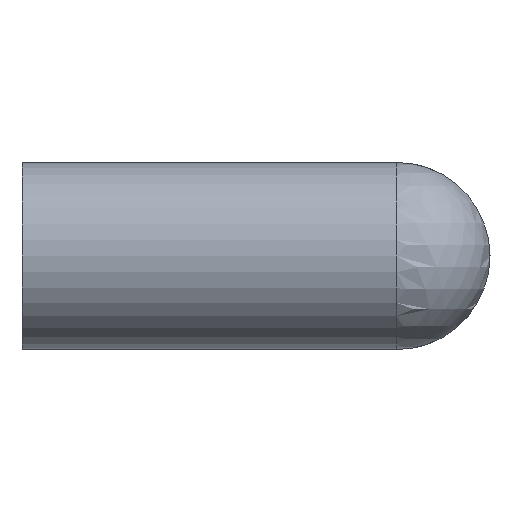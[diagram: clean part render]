
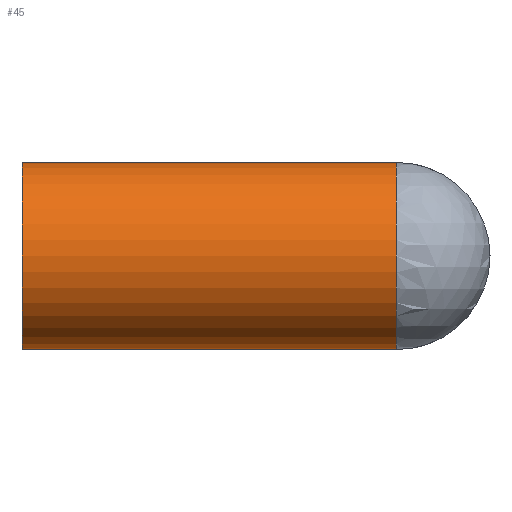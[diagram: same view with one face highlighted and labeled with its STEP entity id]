
A CAD part, left-side view. The second image highlights one B-rep face of the part: STEP entity #45.
In plain terms, the highlighted cylindrical face has radius 6 mm (diameter 12 mm), a full revolution.
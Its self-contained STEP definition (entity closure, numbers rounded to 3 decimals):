
#45 = ADVANCED_FACE( '', ( #92, #93 ), #94, .T. );
#92 = FACE_OUTER_BOUND( '', #139, .T. );
#93 = FACE_OUTER_BOUND( '', #140, .T. );
#94 = CYLINDRICAL_SURFACE( '', #141, 6. );
#139 = EDGE_LOOP( '', ( #193 ) );
#140 = EDGE_LOOP( '', ( #194, #195 ) );
#141 = AXIS2_PLACEMENT_3D( '', #196, #197, #198 );
#193 = ORIENTED_EDGE( '', *, *, #240, .F. );
#194 = ORIENTED_EDGE( '', *, *, #230, .T. );
#195 = ORIENTED_EDGE( '', *, *, #235, .T. );
#196 = CARTESIAN_POINT( '', ( 0., -24., 0. ) );
#197 = DIRECTION( '', ( 0., -1., 0. ) );
#198 = DIRECTION( '', ( 0., 0., 1. ) );
#230 = EDGE_CURVE( '', #253, #254, #255, .T. );
#235 = EDGE_CURVE( '', #254, #253, #261, .T. );
#240 = EDGE_CURVE( '', #269, #269, #270, .T. );
#253 = VERTEX_POINT( '', #286 );
#254 = VERTEX_POINT( '', #287 );
#255 = CIRCLE( '', #288, 6. );
#261 = ELLIPSE( '', #294, 8.485, 6. );
#269 = VERTEX_POINT( '', #302 );
#270 = CIRCLE( '', #303, 6. );
#286 = CARTESIAN_POINT( '', ( 0., -24., -6. ) );
#287 = CARTESIAN_POINT( '', ( 0., -24., 6. ) );
#288 = AXIS2_PLACEMENT_3D( '', #318, #319, #320 );
#294 = AXIS2_PLACEMENT_3D( '', #327, #328, #329 );
#302 = CARTESIAN_POINT( '', ( 6., 0., 0. ) );
#303 = AXIS2_PLACEMENT_3D( '', #339, #340, #341 );
#318 = CARTESIAN_POINT( '', ( 0., -24., 0. ) );
#319 = DIRECTION( '', ( 0., 1., 0. ) );
#320 = DIRECTION( '', ( 1., 0., 0. ) );
#327 = CARTESIAN_POINT( '', ( 0., -24., 0. ) );
#328 = DIRECTION( '', ( -0.707, 0.707, 0. ) );
#329 = DIRECTION( '', ( 0.707, 0.707, 0. ) );
#339 = CARTESIAN_POINT( '', ( 0., 0., 0. ) );
#340 = DIRECTION( '', ( 0., 1., 0. ) );
#341 = DIRECTION( '', ( 1., 0., 0. ) );
